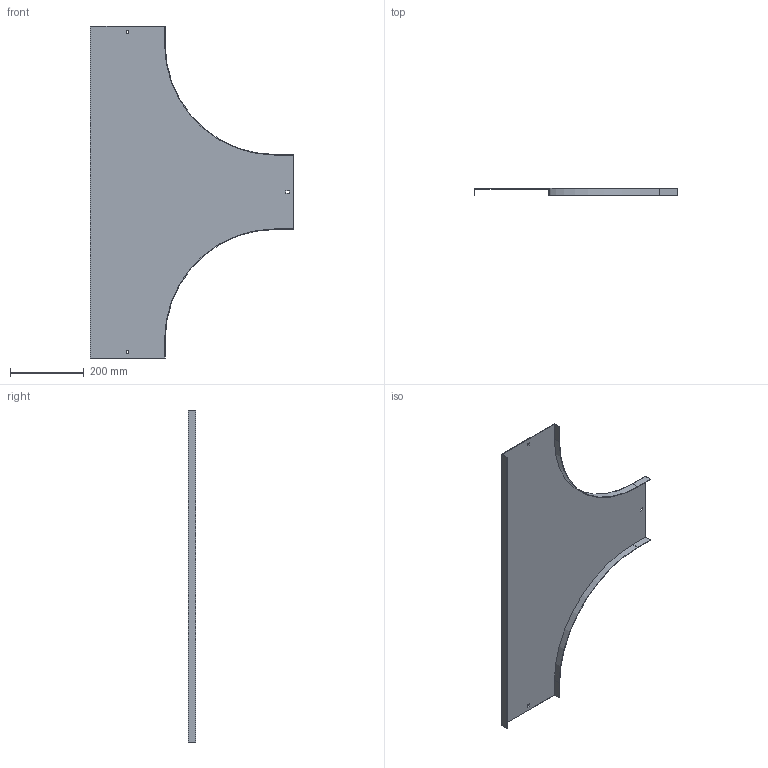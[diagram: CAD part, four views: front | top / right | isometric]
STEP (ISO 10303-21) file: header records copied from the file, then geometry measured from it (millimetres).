
FILE_DESCRIPTION (( 'STEP AP214' ), '1' );
FILE_NAME ('B2_15N3R200.step', '2025-02-21T12:07:00', ( '' ), ( '' ), 'SwSTEP 2.0', 'SolidWorks 2023', '' );
FILE_SCHEMA (( 'AUTOMOTIVE_DESIGN' ));
Length unit declared in the file: millimetre
Products named in the file (1): B2_15N3R200
Bounding box: 551.5 x 20 x 900 mm (x, y, z)
Volume: 493882.9 mm3; surface area: 662786.7 mm2
Topology: 1 solids, 1 shells, 34 faces, 96 edges, 64 vertices
Faces by surface type: plane 30, cylinder 4
Entity records: 1123 total; most frequent: CARTESIAN_POINT 195, ORIENTED_EDGE 192, DIRECTION 174, EDGE_CURVE 96, VECTOR 88, LINE 88, VERTEX_POINT 64, AXIS2_PLACEMENT_3D 43
